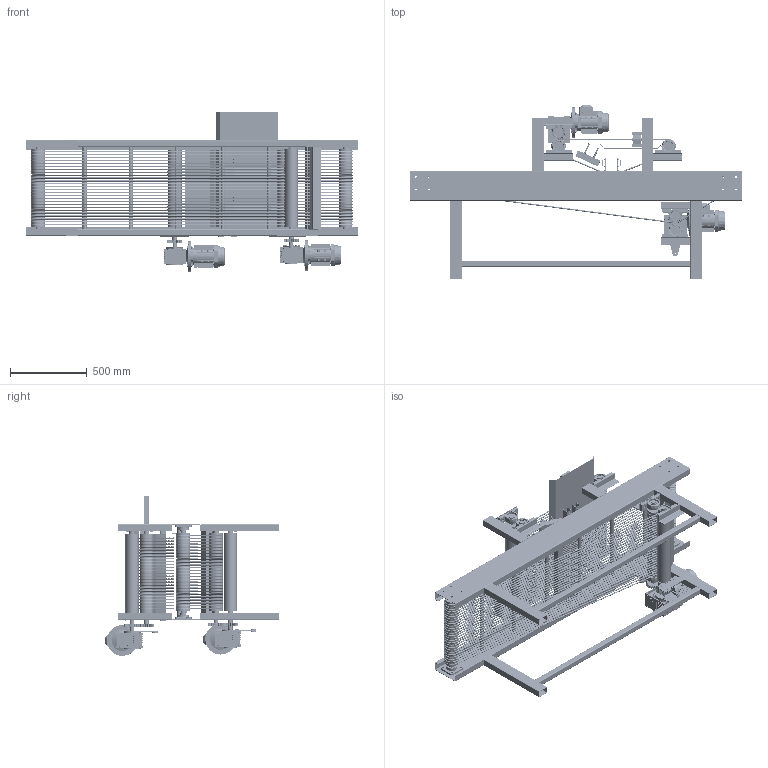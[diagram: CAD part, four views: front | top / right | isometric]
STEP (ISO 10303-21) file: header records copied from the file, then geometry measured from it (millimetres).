
FILE_DESCRIPTION(/* description */ (''),/* implementation_level */ '2;1');
FILE_NAME(/* name */ 'beltconveyor_a127_w500_l2150.stp',/* time_stamp */ '2025-01-12T22:26:51+08:00',/* author */ (''),/* organization */ (''),/* preprocessor_version */ 'ST-DEVELOPER v16.7',/* originating_system */ 'SIEMENS PLM Software NX 12.0',/* authorisation */ '');
FILE_SCHEMA (('AUTOMOTIVE_DESIGN { 1 0 10303 214 3 1 1 1 }'));
Products named in the file (24): 烙机-上压架20220509_默认_
按加工_; hex nuts 1-fine pitch-grades ab gb_GB_FASTENER_NUT_SNAB1XY M8X1-N; 弹簧; NMRV063蜗轮蜗杆减速机[RV63-50-0.55kW-A1]_NMRV减速机_
63; NMRV063蜗轮蜗杆减速机[RV63-50-0.55kW-A1]_电机_
80; 烙机-刷子20220509_默认_
按加工_; 烙机-下滚轴（2）20
220509; 烙机-机架20220509_默认_
按加工_; 烙机-上滚轴（1）20
220509; 烙机-下滚轴（3）20
220509; 烙机-刷子(端)20220509_
默认_按加工_; 烙机-上滚轴（2）20
220509; 烙机-天然气炉头20220509; UCF200系列[UCF206]_UCF206; 烙机-上滚轴（3）20
220509; 烙机-刷子接盘20220509; 烙机-下滚轴（1）20
220509; 皮带2-13; GB╱T 7810-2017[带立式座轴承(
UCP)UCP206]_UCP206; 皮带3-14; 圆柱齿轮23×4; 烙机-上压架-装配体2
0220509; NMRV063蜗轮蜗杆减速机[RV63-50-0.55kW-A1]_RV63-5
0-0.55kW-A1; beltconveyor_a127_w500_l2150
Assembly tree (120 placements, depth 3):
  beltconveyor_a127_w500_l2150
    圆柱齿轮23×4  x4
    皮带3-14  x26
    NMRV063蜗轮蜗杆减速机[RV63-50-0.55kW-A1]_RV63-5
0-0.55kW-A1  x2
      NMRV063蜗轮蜗杆减速机[RV63-50-0.55kW-A1]_电机_
80
      NMRV063蜗轮蜗杆减速机[RV63-50-0.55kW-A1]_NMRV减速机_
63
    GB╱T 7810-2017[带立式座轴承(
UCP)UCP206]_UCP206  x10
    皮带2-13  x25
    烙机-下滚轴（1）20
220509  x2
    烙机-刷子接盘20220509
    烙机-上滚轴（3）20
220509
    UCF200系列[UCF206]_UCF206  x4
    烙机-天然气炉头20220509  x2
    烙机-上滚轴（2）20
220509
    烙机-刷子(端)20220509_
默认_按加工_
    烙机-下滚轴（3）20
220509
    烙机-上压架-装配体2
0220509  x2
      弹簧
      hex nuts 1-fine pitch-grades ab gb_GB_FASTENER_NUT_SNAB1XY M8X1-N
      烙机-上压架20220509_默认_
按加工_
    烙机-上滚轴（1）20
220509
    烙机-机架20220509_默认_
按加工_
    烙机-下滚轴（2）20
220509
    烙机-刷子20220509_默认_
按加工_
Bounding box: 2160 x 1134.98 x 1038.74 mm (x, y, z)
Volume: 66648584.4 mm3; surface area: 16339595.1 mm2
Topology: 645 solids, 667 shells, 12695 faces, 30846 edges, 19690 vertices
Faces by surface type: plane 5294, cylinder 3778, torus 1350, cone 876, sphere 692, extrusion 369, bspline 336
Entity records: 198372 total; most frequent: CARTESIAN_POINT 52798, DIRECTION 29297, ORIENTED_EDGE 27402, EDGE_CURVE 13701, AXIS2_PLACEMENT_3D 11254, VERTEX_POINT 8779, VECTOR 6789, EDGE_LOOP 6640
